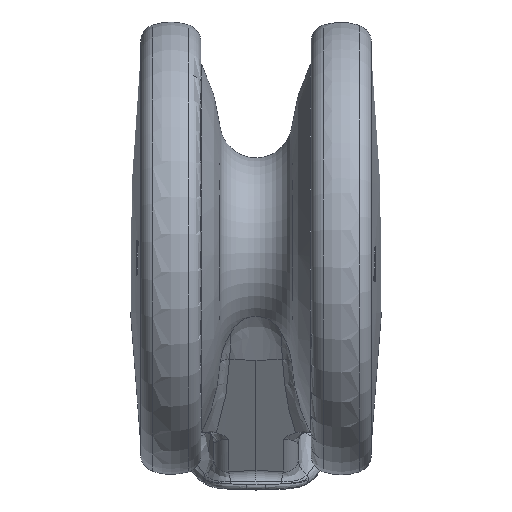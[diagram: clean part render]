
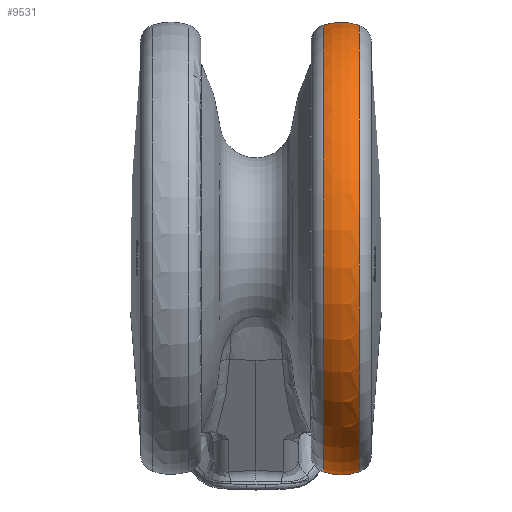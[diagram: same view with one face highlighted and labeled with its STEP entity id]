
A CAD part, front view. The second image highlights one B-rep face of the part: STEP entity #9531.
In plain terms, the highlighted toroidal (fillet/blend) face has major radius 57 mm and minor radius 18 mm.
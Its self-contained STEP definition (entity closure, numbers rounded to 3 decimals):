
#79=TOROIDAL_SURFACE('',#10202,57.,18.);
#1778=FACE_OUTER_BOUND('',#2333,.T.);
#2333=EDGE_LOOP('',(#7943,#7944,#7945,#7946,#7947,#7948,#7949));
#3354=CIRCLE('',#10196,73.971);
#3355=CIRCLE('',#10197,73.971);
#3359=CIRCLE('',#10203,73.971);
#3360=CIRCLE('',#10204,73.971);
#3361=CIRCLE('',#10205,18.);
#3362=CIRCLE('',#10206,73.971);
#4172=VERTEX_POINT('',#24686);
#4173=VERTEX_POINT('',#24687);
#4176=VERTEX_POINT('',#24697);
#4177=VERTEX_POINT('',#24698);
#4178=VERTEX_POINT('',#24700);
#5457=EDGE_CURVE('',#4172,#4173,#3354,.T.);
#5458=EDGE_CURVE('',#4173,#4172,#3355,.T.);
#5462=EDGE_CURVE('',#4176,#4177,#3359,.F.);
#5463=EDGE_CURVE('',#4178,#4176,#3360,.F.);
#5464=EDGE_CURVE('',#4178,#4173,#3361,.T.);
#5465=EDGE_CURVE('',#4177,#4178,#3362,.F.);
#7943=ORIENTED_EDGE('',*,*,#5462,.F.);
#7944=ORIENTED_EDGE('',*,*,#5463,.F.);
#7945=ORIENTED_EDGE('',*,*,#5464,.T.);
#7946=ORIENTED_EDGE('',*,*,#5458,.T.);
#7947=ORIENTED_EDGE('',*,*,#5457,.T.);
#7948=ORIENTED_EDGE('',*,*,#5464,.F.);
#7949=ORIENTED_EDGE('',*,*,#5465,.F.);
#9531=ADVANCED_FACE('',(#1778),#79,.T.);
#10196=AXIS2_PLACEMENT_3D('',#24688,#11775,#11776);
#10197=AXIS2_PLACEMENT_3D('',#24689,#11777,#11778);
#10202=AXIS2_PLACEMENT_3D('',#24696,#11787,#11788);
#10203=AXIS2_PLACEMENT_3D('',#24699,#11789,#11790);
#10204=AXIS2_PLACEMENT_3D('',#24701,#11791,#11792);
#10205=AXIS2_PLACEMENT_3D('',#24702,#11793,#11794);
#10206=AXIS2_PLACEMENT_3D('',#24703,#11795,#11796);
#11775=DIRECTION('center_axis',(-1.,0.,0.));
#11776=DIRECTION('ref_axis',(0.,0.996,0.084));
#11777=DIRECTION('center_axis',(-1.,0.,0.));
#11778=DIRECTION('ref_axis',(0.,0.996,0.084));
#11787=DIRECTION('center_axis',(-1.,0.,0.));
#11788=DIRECTION('ref_axis',(0.,0.,1.));
#11789=DIRECTION('center_axis',(1.,0.,0.));
#11790=DIRECTION('ref_axis',(0.,-0.996,-0.084));
#11791=DIRECTION('center_axis',(1.,0.,0.));
#11792=DIRECTION('ref_axis',(0.,-0.996,-0.084));
#11793=DIRECTION('center_axis',(0.,-1.,0.));
#11794=DIRECTION('ref_axis',(0.,0.,-1.));
#11795=DIRECTION('center_axis',(1.,0.,0.));
#11796=DIRECTION('ref_axis',(0.,-0.996,-0.084));
#24686=CARTESIAN_POINT('',(34.24,-31.593,58.241));
#24687=CARTESIAN_POINT('',(34.24,-105.3,-21.971));
#24688=CARTESIAN_POINT('Origin',(34.24,-105.3,52.));
#24689=CARTESIAN_POINT('Origin',(34.24,-105.3,52.));
#24696=CARTESIAN_POINT('Origin',(28.24,-105.3,52.));
#24697=CARTESIAN_POINT('',(22.24,-179.007,45.759));
#24698=CARTESIAN_POINT('',(22.24,-105.3,125.971));
#24699=CARTESIAN_POINT('Origin',(22.24,-105.3,52.));
#24700=CARTESIAN_POINT('',(22.24,-105.3,-21.971));
#24701=CARTESIAN_POINT('Origin',(22.24,-105.3,52.));
#24702=CARTESIAN_POINT('Origin',(28.24,-105.3,-5.));
#24703=CARTESIAN_POINT('Origin',(22.24,-105.3,52.));
